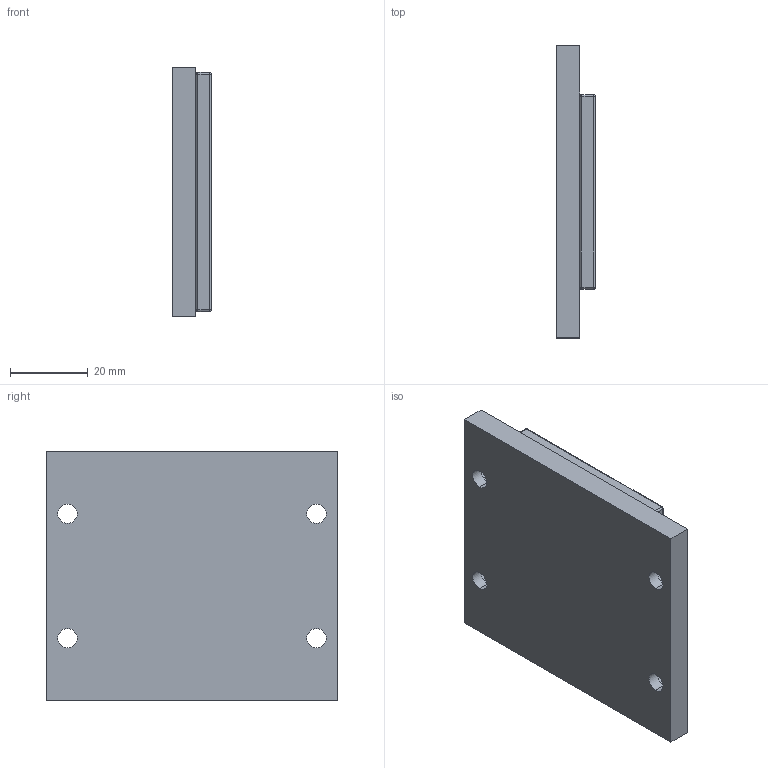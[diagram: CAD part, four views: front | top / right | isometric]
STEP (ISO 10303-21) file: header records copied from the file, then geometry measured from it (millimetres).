
FILE_DESCRIPTION (( 'STEP AP214' ), '1' );
FILE_NAME ('PIXM050-TL064-NC.STEP', '2020-07-30T01:53:35', ( '' ), ( '' ), 'SwSTEP 2.0', 'SolidWorks 2016', '' );
FILE_SCHEMA (( 'AUTOMOTIVE_DESIGN' ));
Length unit declared in the file: inch
Products named in the file (3): PIXM050-TL064-NC; 001SM050LXXX01_TL64; 001SM050000001-CUSTOMER_TL064
Assembly tree (2 placements, depth 2):
  PIXM050-TL064-NC
    001SM050LXXX01_TL64
    001SM050000001-CUSTOMER_TL064
Bounding box: 10 x 75 x 64 mm (x, y, z)
Volume: 40158.2 mm3; surface area: 18566.5 mm2
Topology: 2 solids, 2 shells, 63 faces, 146 edges, 84 vertices
Faces by surface type: cylinder 28, plane 27, bspline 8
Entity records: 2763 total; most frequent: CARTESIAN_POINT 410, DIRECTION 314, ORIENTED_EDGE 276, EDGE_CURVE 138, AXIS2_PLACEMENT_3D 116, VERTEX_POINT 84, VECTOR 82, LINE 82
